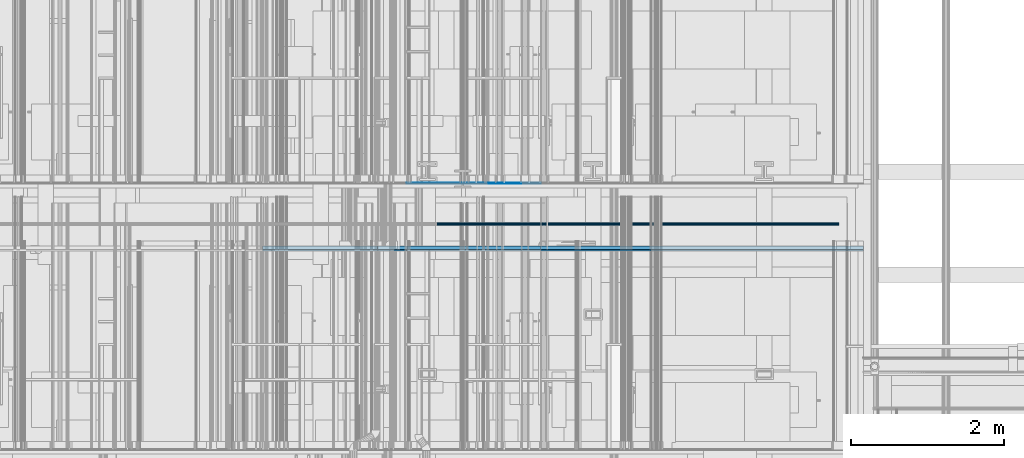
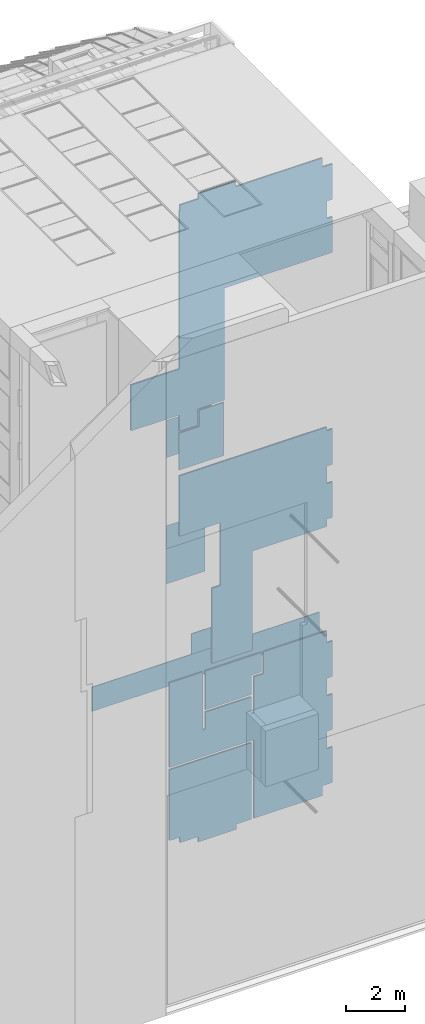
# One storey, part 254 of 583: 17 slabs.
"""IFC2X3 building model written with IfcOpenShell, lengths in metres."""

from ifc_helpers import new_model, entity, si_unit, converted_unit, derived_unit, money_unit, direction, frame, origin_with_axes, place, context, subcontext, project, spatial, faceted_brep, material, type_object, element, save


model = new_model("IFC2X3")

# Units and contexts
model_context = context("Model", 3, precision=1e-05, world=origin_with_axes(), true_north=direction((0.0, 1.0)))
body_context = subcontext(model_context, "Body", "Model", "MODEL_VIEW", scale=1.0)
ifc_project = project(units=[si_unit("LENGTHUNIT", "METRE"), si_unit("AREAUNIT", "SQUARE_METRE"), si_unit("VOLUMEUNIT", "CUBIC_METRE"), si_unit("ABSORBEDDOSEUNIT", "GRAY"), si_unit("AMOUNTOFSUBSTANCEUNIT", "MOLE"), si_unit("DOSEEQUIVALENTUNIT", "SIEVERT"), si_unit("ELECTRICCAPACITANCEUNIT", "FARAD"), si_unit("ELECTRICCHARGEUNIT", "COULOMB"), si_unit("ELECTRICCONDUCTANCEUNIT", "SIEMENS"), si_unit("ELECTRICCURRENTUNIT", "AMPERE"), si_unit("ELECTRICRESISTANCEUNIT", "OHM"), si_unit("ELECTRICVOLTAGEUNIT", "VOLT"), si_unit("ENERGYUNIT", "JOULE"), si_unit("FORCEUNIT", "NEWTON"), si_unit("FREQUENCYUNIT", "HERTZ"), si_unit("ILLUMINANCEUNIT", "LUX"), si_unit("INDUCTANCEUNIT", "HENRY"), si_unit("LUMINOUSFLUXUNIT", "LUMEN"), si_unit("LUMINOUSINTENSITYUNIT", "CANDELA"), si_unit("MAGNETICFLUXDENSITYUNIT", "TESLA"), si_unit("MAGNETICFLUXUNIT", "WEBER"), si_unit("MASSUNIT", "GRAM"), converted_unit("PLANEANGLEUNIT", "degree", entity("IfcReal", 0.0174532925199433), si_unit("PLANEANGLEUNIT", "RADIAN"), dimensions=[0, 0, 0, 0, 0, 0, 0]), si_unit("POWERUNIT", "WATT"), si_unit("PRESSUREUNIT", "PASCAL"), si_unit("RADIOACTIVITYUNIT", "BECQUEREL"), si_unit("SOLIDANGLEUNIT", "STERADIAN"), si_unit("THERMODYNAMICTEMPERATUREUNIT", "KELVIN"), si_unit("TIMEUNIT", "SECOND"), derived_unit("ACCELERATIONUNIT", [(si_unit("LENGTHUNIT", "METRE"), 1), (si_unit("TIMEUNIT", "SECOND"), -2)]), derived_unit("ANGULARVELOCITYUNIT", [(converted_unit("PLANEANGLEUNIT", "degree", entity("IfcReal", 0.0174532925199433), si_unit("PLANEANGLEUNIT", "RADIAN"), dimensions=[0, 0, 0, 0, 0, 0, 0]), 1), (si_unit("TIMEUNIT", "SECOND"), -1)]), derived_unit("CURVATUREUNIT", [(converted_unit("PLANEANGLEUNIT", "degree", entity("IfcReal", 0.0174532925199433), si_unit("PLANEANGLEUNIT", "RADIAN"), dimensions=[0, 0, 0, 0, 0, 0, 0]), 1), (si_unit("LENGTHUNIT", "METRE"), -1)]), derived_unit("DYNAMICVISCOSITYUNIT", [(si_unit("PRESSUREUNIT", "PASCAL"), 1), (si_unit("TIMEUNIT", "SECOND"), 1)]), derived_unit("HEATFLUXDENSITYUNIT", [(si_unit("POWERUNIT", "WATT"), 1), (si_unit("LENGTHUNIT", "METRE"), -2)]), derived_unit("HEATINGVALUEUNIT", [(si_unit("ENERGYUNIT", "JOULE"), 1), (si_unit("MASSUNIT", "GRAM"), -1)]), derived_unit("INTEGERCOUNTRATEUNIT", [(si_unit("TIMEUNIT", "SECOND"), -1)]), derived_unit("IONCONCENTRATIONUNIT", [(si_unit("MASSUNIT", "GRAM"), 1), (si_unit("VOLUMEUNIT", "CUBIC_METRE"), -1)]), derived_unit("ISOTHERMALMOISTURECAPACITYUNIT", [(si_unit("VOLUMEUNIT", "CUBIC_METRE"), 1), (si_unit("MASSUNIT", "GRAM"), -1)]), derived_unit("KINEMATICVISCOSITYUNIT", [(si_unit("AREAUNIT", "SQUARE_METRE"), 1), (si_unit("TIMEUNIT", "SECOND"), -1)]), derived_unit("LINEARFORCEUNIT", [(si_unit("FORCEUNIT", "NEWTON"), 1), (si_unit("LENGTHUNIT", "METRE"), -1)]), derived_unit("LINEARMOMENTUNIT", [(si_unit("FORCEUNIT", "NEWTON"), 1), (si_unit("LENGTHUNIT", "METRE"), -1)]), derived_unit("LINEARSTIFFNESSUNIT", [(si_unit("FORCEUNIT", "NEWTON"), 1), (si_unit("LENGTHUNIT", "METRE"), -1)]), derived_unit("LINEARVELOCITYUNIT", [(si_unit("LENGTHUNIT", "METRE"), 1), (si_unit("TIMEUNIT", "SECOND"), -1)]), derived_unit("LUMINOUSINTENSITYDISTRIBUTIONUNIT", [(si_unit("LUMINOUSINTENSITYUNIT", "CANDELA"), 1), (si_unit("LUMINOUSFLUXUNIT", "LUMEN"), -1)]), derived_unit("MASSDENSITYUNIT", [(si_unit("MASSUNIT", "GRAM"), 1), (si_unit("VOLUMEUNIT", "CUBIC_METRE"), -1)]), derived_unit("MASSFLOWRATEUNIT", [(si_unit("MASSUNIT", "GRAM"), 1), (si_unit("TIMEUNIT", "SECOND"), -1)]), derived_unit("MASSPERLENGTHUNIT", [(si_unit("MASSUNIT", "GRAM"), 1), (si_unit("LENGTHUNIT", "METRE"), -1)]), derived_unit("MODULUSOFELASTICITYUNIT", [(si_unit("FORCEUNIT", "NEWTON"), 1), (si_unit("AREAUNIT", "SQUARE_METRE"), -1)]), derived_unit("MODULUSOFLINEARSUBGRADEREACTIONUNIT", [(si_unit("FORCEUNIT", "NEWTON"), 1), (si_unit("LENGTHUNIT", "METRE"), -2)]), derived_unit("MODULUSOFROTATIONALSUBGRADEREACTIONUNIT", [(si_unit("FORCEUNIT", "NEWTON"), 1), (si_unit("LENGTHUNIT", "METRE"), 1)]), derived_unit("MODULUSOFSUBGRADEREACTIONUNIT", [(si_unit("FORCEUNIT", "NEWTON"), 1), (si_unit("VOLUMEUNIT", "CUBIC_METRE"), -1)]), derived_unit("MOISTUREDIFFUSIVITYUNIT", [(si_unit("VOLUMEUNIT", "CUBIC_METRE"), 1), (si_unit("TIMEUNIT", "SECOND"), -1)]), derived_unit("MOLECULARWEIGHTUNIT", [(si_unit("MASSUNIT", "GRAM"), 1), (si_unit("AMOUNTOFSUBSTANCEUNIT", "MOLE"), -1)]), derived_unit("PLANARFORCEUNIT", [(si_unit("FORCEUNIT", "NEWTON"), 1), (si_unit("LENGTHUNIT", "METRE"), -2)]), derived_unit("ROTATIONALFREQUENCYUNIT", [(si_unit("TIMEUNIT", "SECOND"), -1)]), derived_unit("ROTATIONALMASSUNIT", [(si_unit("MASSUNIT", "GRAM"), 1), (si_unit("LENGTHUNIT", "METRE"), 2)]), derived_unit("ROTATIONALSTIFFNESSUNIT", [(si_unit("FORCEUNIT", "NEWTON"), 1), (si_unit("LENGTHUNIT", "METRE"), 1), (converted_unit("PLANEANGLEUNIT", "degree", entity("IfcReal", 0.0174532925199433), si_unit("PLANEANGLEUNIT", "RADIAN"), dimensions=[0, 0, 0, 0, 0, 0, 0]), -1)]), derived_unit("SECTIONAREAINTEGRALUNIT", [(si_unit("LENGTHUNIT", "METRE"), 5)]), derived_unit("SECTIONMODULUSUNIT", [(si_unit("LENGTHUNIT", "METRE"), 3)]), derived_unit("SHEARMODULUSUNIT", [(si_unit("FORCEUNIT", "NEWTON"), 1), (si_unit("AREAUNIT", "SQUARE_METRE"), -1)]), derived_unit("SOUNDPOWERUNIT", [(si_unit("ENERGYUNIT", "JOULE"), 1), (si_unit("TIMEUNIT", "SECOND"), -1)]), derived_unit("SPECIFICHEATCAPACITYUNIT", [(si_unit("FORCEUNIT", "NEWTON"), 1), (si_unit("MASSUNIT", "GRAM"), -1), (si_unit("THERMODYNAMICTEMPERATUREUNIT", "KELVIN"), -1)]), derived_unit("TEMPERATUREGRADIENTUNIT", [(si_unit("THERMODYNAMICTEMPERATUREUNIT", "KELVIN"), 1), (si_unit("LENGTHUNIT", "METRE"), -1)]), derived_unit("THERMALADMITTANCEUNIT", [(si_unit("POWERUNIT", "WATT"), 1), (si_unit("AREAUNIT", "SQUARE_METRE"), -1), (si_unit("THERMODYNAMICTEMPERATUREUNIT", "KELVIN"), -1)]), derived_unit("THERMALCONDUCTANCEUNIT", [(si_unit("POWERUNIT", "WATT"), 1), (si_unit("LENGTHUNIT", "METRE"), -1), (si_unit("THERMODYNAMICTEMPERATUREUNIT", "KELVIN"), -1)]), derived_unit("THERMALEXPANSIONCOEFFICIENTUNIT", [(si_unit("THERMODYNAMICTEMPERATUREUNIT", "KELVIN"), -1)]), derived_unit("THERMALRESISTANCEUNIT", [(si_unit("AREAUNIT", "SQUARE_METRE"), 1), (si_unit("POWERUNIT", "WATT"), -1)]), derived_unit("THERMALTRANSMITTANCEUNIT", [(si_unit("POWERUNIT", "WATT"), 1), (si_unit("AREAUNIT", "SQUARE_METRE"), -1), (si_unit("THERMODYNAMICTEMPERATUREUNIT", "KELVIN"), -1)]), derived_unit("TORQUEUNIT", [(si_unit("FORCEUNIT", "NEWTON"), 1), (si_unit("LENGTHUNIT", "METRE"), 1)]), derived_unit("VAPORPERMEABILITYUNIT", [(si_unit("MASSUNIT", "GRAM"), 1), (si_unit("TIMEUNIT", "SECOND"), -1)]), derived_unit("VOLUMETRICFLOWRATEUNIT", [(si_unit("VOLUMEUNIT", "CUBIC_METRE"), 1), (si_unit("TIMEUNIT", "SECOND"), -1)]), derived_unit("WARPINGCONSTANTUNIT", [(si_unit("LENGTHUNIT", "METRE"), 6)]), derived_unit("WARPINGMOMENTUNIT", [(si_unit("FORCEUNIT", "NEWTON"), 1), (si_unit("LENGTHUNIT", "METRE"), 2)]), money_unit("GBP")], contexts=[model_context])

# Site, building, storey
site_placement = place(None, origin_with_axes())
site = spatial("IfcSite", under=ifc_project, at=site_placement, Name="Site", CompositionType="ELEMENT")
building_placement = place(site_placement, origin_with_axes())
building = spatial("IfcBuilding", under=site, at=building_placement, Name="Building01", CompositionType="ELEMENT")
storey_placement = place(building_placement, frame((0.0, 0.0, 20.78), z_axis=(0.0, 0.0, 1.0), x_axis=(1.0, 0.0, 0.0)))
storey = spatial("IfcBuildingStorey", under=building, at=storey_placement, Name="RL", CompositionType="ELEMENT", Elevation=20.78)

# Slabs
ifc_material_1 = material(Name="A_BSUK_CeilingSoffitFinishes_Suspended")
slab_type_1 = type_object("IfcSlabType", Name="A-FloorsSlabs A_BSUK_Slabs", PredefinedType="FLOOR")
placement = place(storey_placement, frame((0.0, 0.0, -20.78), z_axis=(0.0, 0.0, 1.0), x_axis=(1.0, 0.0, 0.0)))
element("IfcSlab", 1, at=placement, inside=storey, type_object=slab_type_1, material=ifc_material_1, Name="A-FloorsSlabs A_BSUK_Slabs", ObjectType="CompoundSlabLeaf", context=body_context, shape_type="Brep", body=[
    faceted_brep([(9.73567, 7.765, 4.669669), (9.73567, 7.78, 4.669669), (9.73567, 7.78, 7.064669), (9.73567, 7.765, 7.064669), (9.83067, 7.765, 4.669669), (9.83067, 7.78, 4.669669), (9.83067, 7.765, 5.369669), (9.83067, 7.78, 5.369669), (11.63067, 7.765, 5.369669), (11.63067, 7.78, 5.369669), (11.63067, 7.765, 4.669669), (11.63067, 7.78, 4.669669), (11.72567, 7.765, 4.669669), (11.72567, 7.78, 4.669669), (11.72567, 7.765, 6.169669), (11.72567, 7.78, 6.169669), (12.11067, 7.765, 6.169669), (12.11067, 7.78, 6.169669), (12.11067, 7.765, 7.064669), (12.11067, 7.78, 7.064669), (14.582, 7.765, 7.064669), (14.582, 7.78, 7.064669), (14.582, 7.765, 6.574876), (14.582, 7.78, 6.574876), (14.8, 7.765, 6.574876), (14.8, 7.78, 6.574876), (14.8, 7.765, 5.105), (14.8, 7.78, 5.105), (14.582, 7.765, 5.105), (14.582, 7.78, 5.105), (14.582, 7.765, 4.385), (14.582, 7.78, 4.385), (14.8, 7.765, 4.385), (14.8, 7.78, 4.385), (14.8, 7.765, 2.915), (14.8, 7.78, 2.915), (14.582, 7.765, 2.915), (14.582, 7.78, 2.915), (14.582, 7.765, 2.195), (14.582, 7.78, 2.195), (14.8, 7.765, 2.195), (14.8, 7.78, 2.195), (14.8, 7.765, 0.725), (14.8, 7.78, 0.725), (14.402, 7.765, 0.725), (14.402, 7.78, 0.725), (14.402, 7.765, 0.318), (14.402, 7.78, 0.318), (11.72567, 7.765, 0.318), (11.72567, 7.78, 0.318), (11.72567, 7.765, 3.569669), (11.72567, 7.78, 3.569669), (8.43567, 7.765, 3.569669), (8.43567, 7.78, 3.569669), (8.43567, 7.765, 7.064669), (8.43567, 7.78, 7.064669)], [[[0, 1, 2, 3]], [[4, 5, 1, 0]], [[6, 7, 5, 4]], [[8, 9, 7, 6]], [[10, 11, 9, 8]], [[12, 13, 11, 10]], [[14, 15, 13, 12]], [[16, 17, 15, 14]], [[18, 19, 17, 16]], [[20, 21, 19, 18]], [[22, 23, 21, 20]], [[24, 25, 23, 22]], [[26, 27, 25, 24]], [[28, 29, 27, 26]], [[30, 31, 29, 28]], [[32, 33, 31, 30]], [[34, 35, 33, 32]], [[36, 37, 35, 34]], [[38, 39, 37, 36]], [[40, 41, 39, 38]], [[42, 43, 41, 40]], [[44, 45, 43, 42]], [[46, 47, 45, 44]], [[48, 49, 47, 46]], [[50, 51, 49, 48]], [[52, 53, 51, 50]], [[54, 55, 53, 52]], [[3, 2, 55, 54]], [[1, 5, 7, 9, 11, 13, 15, 17, 19, 21, 23, 25, 27, 29, 31, 33, 35, 37, 39, 41, 43, 45, 47, 49, 51, 53, 55, 2]], [[3, 54, 52, 50, 48, 46, 44, 42, 40, 38, 36, 34, 32, 30, 28, 26, 24, 22, 20, 18, 16, 14, 12, 10, 8, 6, 4, 0]]]),
])
element("IfcSlab", 2, at=placement, inside=storey, type_object=slab_type_1, material=ifc_material_1, Name="A-FloorsSlabs A_BSUK_Slabs", ObjectType="CompoundSlabLeaf", context=body_context, shape_type="Brep", body=[
    faceted_brep([(10.53067, 7.765, 5.464669), (10.53067, 7.78, 5.464669), (11.63067, 7.78, 5.464669), (11.63067, 7.765, 5.464669), (9.83067, 7.765, 5.464669), (9.83067, 7.78, 5.464669), (9.83067, 7.765, 7.064669), (9.83067, 7.78, 7.064669), (12.01567, 7.765, 7.064669), (12.01567, 7.78, 7.064669), (12.01567, 7.765, 6.264669), (12.01567, 7.78, 6.264669), (11.63067, 7.765, 6.264669), (11.63067, 7.78, 6.264669)], [[[0, 1, 2, 3]], [[4, 5, 1, 0]], [[6, 7, 5, 4]], [[8, 9, 7, 6]], [[10, 11, 9, 8]], [[12, 13, 11, 10]], [[3, 2, 13, 12]], [[1, 5, 7, 9, 11, 13, 2]], [[3, 12, 10, 8, 6, 4, 0]]]),
])
element("IfcSlab", 3, at=placement, inside=storey, type_object=slab_type_1, material=ifc_material_1, Name="A-FloorsSlabs A_BSUK_Slabs", ObjectType="CompoundSlabLeaf", context=body_context, shape_type="Brep", body=[
    faceted_brep([(10.415, 7.765, 12.988585), (10.415, 7.78, 12.988585), (10.415, 7.78, 10.393871), (10.415, 7.765, 10.393871), (8.82, 7.765, 12.988585), (8.82, 7.78, 12.988585), (8.82, 7.765, 15.483132), (8.82, 7.78, 15.483132), (14.582, 7.765, 15.483132), (14.582, 7.78, 15.483132), (14.582, 7.765, 15.335), (14.582, 7.78, 15.335), (14.8, 7.765, 15.335), (14.8, 7.78, 15.335), (14.8, 7.765, 13.865), (14.8, 7.78, 13.865), (14.582, 7.765, 13.865), (14.582, 7.78, 13.865), (14.582, 7.765, 13.145), (14.582, 7.78, 13.145), (14.8, 7.765, 13.145), (14.8, 7.78, 13.145), (14.8, 7.765, 11.675), (14.8, 7.78, 11.675), (14.582, 7.765, 11.675), (14.582, 7.78, 11.675), (14.582, 7.765, 11.375), (14.582, 7.78, 11.375), (11.668124, 7.765, 11.375), (11.668124, 7.78, 11.375), (11.668124, 7.765, 10.653), (11.668124, 7.78, 10.653), (11.668124, 7.765, 9.642), (11.668124, 7.78, 9.642), (11.668124, 7.765, 7.289669), (11.668124, 7.78, 7.289669), (10.087704, 7.765, 7.289669), (10.087704, 7.78, 7.289669), (10.087704, 7.765, 10.393871), (10.087704, 7.78, 10.393871)], [[[0, 1, 2, 3]], [[4, 5, 1, 0]], [[6, 7, 5, 4]], [[8, 9, 7, 6]], [[10, 11, 9, 8]], [[12, 13, 11, 10]], [[14, 15, 13, 12]], [[16, 17, 15, 14]], [[18, 19, 17, 16]], [[20, 21, 19, 18]], [[22, 23, 21, 20]], [[24, 25, 23, 22]], [[26, 27, 25, 24]], [[28, 29, 27, 26]], [[30, 31, 29, 28]], [[32, 33, 31, 30]], [[34, 35, 33, 32]], [[36, 37, 35, 34]], [[38, 39, 37, 36]], [[3, 2, 39, 38]], [[1, 5, 7, 9, 11, 13, 15, 17, 19, 21, 23, 25, 27, 29, 31, 33, 35, 37, 39, 2]], [[3, 38, 36, 34, 32, 30, 28, 26, 24, 22, 20, 18, 16, 14, 12, 10, 8, 6, 4, 0]]]),
])
element("IfcSlab", 4, at=placement, inside=storey, type_object=slab_type_1, material=ifc_material_1, Name="A-FloorsSlabs A_BSUK_Slabs", ObjectType="CompoundSlabLeaf", context=body_context, shape_type="Brep", body=[
    faceted_brep([(6.93, 7.765, 18.395), (6.93, 7.78, 18.395), (6.93, 7.78, 18.0), (6.93, 7.765, 18.0), (6.93, 7.765, 19.395), (6.93, 7.78, 19.395), (6.93, 7.765, 19.897661), (6.93, 7.78, 19.897661), (8.82, 7.765, 19.897661), (8.82, 7.78, 19.897661), (8.82, 7.765, 26.432), (8.82, 7.78, 26.432), (8.848, 7.765, 26.432), (8.848, 7.78, 26.432), (8.848, 7.765, 26.662), (8.848, 7.78, 26.662), (9.56218, 7.765, 26.662), (9.56218, 7.78, 26.662), (9.56218, 7.765, 26.88), (9.56218, 7.78, 26.88), (11.03218, 7.765, 26.88), (11.03218, 7.78, 26.88), (11.03218, 7.765, 26.662), (11.03218, 7.78, 26.662), (14.402, 7.765, 26.662), (14.402, 7.78, 26.662), (14.402, 7.765, 26.285), (14.402, 7.78, 26.285), (14.8, 7.765, 26.285), (14.8, 7.78, 26.285), (14.8, 7.765, 24.815), (14.8, 7.78, 24.815), (14.582, 7.765, 24.815), (14.582, 7.78, 24.815), (14.582, 7.765, 24.095), (14.582, 7.78, 24.095), (14.8, 7.765, 24.095), (14.8, 7.78, 24.095), (14.8, 7.765, 22.625), (14.8, 7.78, 22.625), (10.57, 7.765, 22.625), (10.57, 7.78, 22.625), (10.57, 7.765, 19.891284), (10.57, 7.78, 19.891284), (10.57, 7.765, 19.044398), (10.57, 7.78, 19.044398), (10.57, 7.765, 18.0), (10.57, 7.78, 18.0), (9.525, 7.765, 18.0), (9.525, 7.78, 18.0), (9.525, 7.765, 17.333132), (9.525, 7.78, 17.333132), (8.82, 7.765, 17.333132), (8.82, 7.78, 17.333132), (8.82, 7.765, 18.0), (8.82, 7.78, 18.0), (7.82088, 7.765, 18.0), (7.82088, 7.78, 18.0), (7.02888, 7.765, 18.0), (7.02888, 7.78, 18.0)], [[[0, 1, 2, 3]], [[4, 5, 1, 0]], [[6, 7, 5, 4]], [[8, 9, 7, 6]], [[10, 11, 9, 8]], [[12, 13, 11, 10]], [[14, 15, 13, 12]], [[16, 17, 15, 14]], [[18, 19, 17, 16]], [[20, 21, 19, 18]], [[22, 23, 21, 20]], [[24, 25, 23, 22]], [[26, 27, 25, 24]], [[28, 29, 27, 26]], [[30, 31, 29, 28]], [[32, 33, 31, 30]], [[34, 35, 33, 32]], [[36, 37, 35, 34]], [[38, 39, 37, 36]], [[40, 41, 39, 38]], [[42, 43, 41, 40]], [[44, 45, 43, 42]], [[46, 47, 45, 44]], [[48, 49, 47, 46]], [[50, 51, 49, 48]], [[52, 53, 51, 50]], [[54, 55, 53, 52]], [[56, 57, 55, 54]], [[58, 59, 57, 56]], [[3, 2, 59, 58]], [[1, 5, 7, 9, 11, 13, 15, 17, 19, 21, 23, 25, 27, 29, 31, 33, 35, 37, 39, 41, 43, 45, 47, 49, 51, 53, 55, 57, 59, 2]], [[3, 58, 56, 54, 52, 50, 48, 46, 44, 42, 40, 38, 36, 34, 32, 30, 28, 26, 24, 22, 20, 18, 16, 14, 12, 10, 8, 6, 4, 0]]]),
])
element("IfcSlab", 5, at=placement, inside=storey, type_object=slab_type_1, material=ifc_material_1, Name="A-FloorsSlabs A_BSUK_Slabs", ObjectType="CompoundSlabLeaf", context=body_context, shape_type="Brep", body=[
    faceted_brep([(11.63067, 7.765, 0.318), (11.63067, 7.78, 0.318), (11.63067, 7.78, 3.474669), (11.63067, 7.765, 3.474669), (11.055, 7.765, 0.318), (11.055, 7.78, 0.318), (11.055, 7.765, 0.1), (11.055, 7.78, 0.1), (9.56218, 7.765, 0.1), (9.56218, 7.78, 0.1), (9.56218, 7.765, 0.318), (9.56218, 7.78, 0.318), (8.848, 7.765, 0.318), (8.848, 7.78, 0.318), (8.848, 7.765, 0.548), (8.848, 7.78, 0.548), (8.43567, 7.765, 0.548), (8.43567, 7.78, 0.548), (8.43567, 7.765, 3.474669), (8.43567, 7.78, 3.474669)], [[[0, 1, 2, 3]], [[4, 5, 1, 0]], [[6, 7, 5, 4]], [[8, 9, 7, 6]], [[10, 11, 9, 8]], [[12, 13, 11, 10]], [[14, 15, 13, 12]], [[16, 17, 15, 14]], [[18, 19, 17, 16]], [[3, 2, 19, 18]], [[1, 5, 7, 9, 11, 13, 15, 17, 19, 2]], [[3, 18, 16, 14, 12, 10, 8, 6, 4, 0]]]),
])
element("IfcSlab", 6, at=placement, inside=storey, type_object=slab_type_1, material=ifc_material_1, Name="A-FloorsSlabs A_BSUK_Slabs", ObjectType="CompoundSlabLeaf", context=body_context, shape_type="Brep", body=[
    faceted_brep([(5.593, 8.115, 6.677169), (5.593, 8.13, 6.677169), (14.48, 8.13, 6.677169), (14.48, 8.115, 6.677169), (5.593, 8.115, 7.677169), (5.593, 8.13, 7.677169), (14.48, 8.115, 7.677169), (14.48, 8.13, 7.677169)], [[[0, 1, 2, 3]], [[4, 5, 1, 0]], [[6, 7, 5, 4]], [[3, 2, 7, 6]], [[1, 5, 7, 2]], [[3, 6, 4, 0]]]),
])
element("IfcSlab", 7, at=placement, inside=storey, type_object=slab_type_1, material=ifc_material_1, Name="A-FloorsSlabs A_BSUK_Slabs", ObjectType="CompoundSlabLeaf", context=body_context, shape_type="Brep", body=[
    faceted_brep([(9.475204, 8.115, 7.677169), (9.475204, 8.13, 7.677169), (10.475204, 8.13, 7.677169), (10.475204, 8.115, 7.677169), (9.475204, 8.115, 8.525), (9.475204, 8.13, 8.525), (10.475204, 8.115, 8.525), (10.475204, 8.13, 8.525)], [[[0, 1, 2, 3]], [[4, 5, 1, 0]], [[6, 7, 5, 4]], [[3, 2, 7, 6]], [[1, 5, 7, 2]], [[3, 6, 4, 0]]]),
])
element("IfcSlab", 8, at=placement, inside=storey, type_object=slab_type_1, material=ifc_material_1, Name="A-FloorsSlabs A_BSUK_Slabs", ObjectType="CompoundSlabLeaf", context=body_context, shape_type="Brep", body=[
    faceted_brep([(5.593, 8.1, 6.677169), (5.593, 8.115, 6.677169), (14.48, 8.115, 6.677169), (14.48, 8.1, 6.677169), (5.593, 8.1, 7.677169), (5.593, 8.115, 7.677169), (14.48, 8.1, 7.677169), (14.48, 8.115, 7.677169)], [[[0, 1, 2, 3]], [[4, 5, 1, 0]], [[6, 7, 5, 4]], [[3, 2, 7, 6]], [[1, 5, 7, 2]], [[3, 6, 4, 0]]]),
])
element("IfcSlab", 9, at=placement, inside=storey, type_object=slab_type_1, material=ifc_material_1, Name="A-FloorsSlabs A_BSUK_Slabs", ObjectType="CompoundSlabLeaf", context=body_context, shape_type="Brep", body=[
    faceted_brep([(9.475204, 8.1, 7.677169), (9.475204, 8.115, 7.677169), (10.475204, 8.115, 7.677169), (10.475204, 8.1, 7.677169), (9.475204, 8.1, 8.525), (9.475204, 8.115, 8.525), (10.475204, 8.1, 8.525), (10.475204, 8.115, 8.525)], [[[0, 1, 2, 3]], [[4, 5, 1, 0]], [[6, 7, 5, 4]], [[3, 2, 7, 6]], [[1, 5, 7, 2]], [[3, 6, 4, 0]]]),
])
ifc_material_2 = material(Name="A_BSUK_Ceramic_FloorTiles")
element("IfcSlab", 10, at=placement, inside=storey, type_object=slab_type_1, material=ifc_material_2, Name="A-FloorsSlabs A_BSUK_Slabs", ObjectType="CompoundSlabLeaf", context=body_context, shape_type="Brep", body=[
    faceted_brep([(10.32, 8.643, 10.488871), (10.32, 8.655, 10.488871), (10.32, 8.655, 12.893585), (10.32, 8.643, 12.893585), (8.82, 8.643, 10.488871), (8.82, 8.655, 10.488871), (8.82, 8.643, 12.893585), (8.82, 8.655, 12.893585)], [[[0, 1, 2, 3]], [[4, 5, 1, 0]], [[6, 7, 5, 4]], [[3, 2, 7, 6]], [[1, 5, 7, 2]], [[3, 6, 4, 0]]]),
])
element("IfcSlab", 11, at=placement, inside=storey, type_object=slab_type_1, material=ifc_material_2, Name="A-FloorsSlabs A_BSUK_Slabs", ObjectType="CompoundSlabLeaf", context=body_context, shape_type="Brep", body=[
    faceted_brep([(8.82, 8.643, 15.708132), (8.82, 8.655, 15.708132), (10.57, 8.655, 15.708132), (10.57, 8.643, 15.708132), (8.82, 8.643, 17.238132), (8.82, 8.655, 17.238132), (9.62, 8.643, 17.238132), (9.62, 8.655, 17.238132), (9.62, 8.643, 17.905), (9.62, 8.655, 17.905), (10.57, 8.643, 17.905), (10.57, 8.655, 17.905)], [[[0, 1, 2, 3]], [[4, 5, 1, 0]], [[6, 7, 5, 4]], [[8, 9, 7, 6]], [[10, 11, 9, 8]], [[3, 2, 11, 10]], [[1, 5, 7, 9, 11, 2]], [[3, 10, 8, 6, 4, 0]]]),
])
ifc_material_3 = material(Name="A_BSUK_ExpandedPolystyreneBoards")
slab_type_2 = type_object("IfcSlabType", Name="A-FloorsSlabs A_BSUK_ExpandedPolystyreneBoards", PredefinedType="FLOOR")
element("IfcSlab", 12, at=placement, inside=storey, type_object=slab_type_2, material=ifc_material_3, Name="A-FloorsSlabs A_BSUK_ExpandedPolystyreneBoards", ObjectType="CompoundSlabLeaf", context=body_context, shape_type="Brep", body=[
    faceted_brep([(9.73567, 7.78, 4.669669), (9.73567, 7.83, 4.669669), (9.73567, 7.83, 7.064669), (9.73567, 7.78, 7.064669), (9.83067, 7.78, 4.669669), (9.83067, 7.83, 4.669669), (9.83067, 7.78, 5.369669), (9.83067, 7.83, 5.369669), (11.63067, 7.78, 5.369669), (11.63067, 7.83, 5.369669), (11.63067, 7.78, 4.669669), (11.63067, 7.83, 4.669669), (11.72567, 7.78, 4.669669), (11.72567, 7.83, 4.669669), (11.72567, 7.78, 6.169669), (11.72567, 7.83, 6.169669), (12.11067, 7.78, 6.169669), (12.11067, 7.83, 6.169669), (12.11067, 7.78, 7.064669), (12.11067, 7.83, 7.064669), (14.582, 7.78, 7.064669), (14.582, 7.83, 7.064669), (14.582, 7.78, 6.574876), (14.582, 7.83, 6.574876), (14.8, 7.78, 6.574876), (14.8, 7.83, 6.574876), (14.8, 7.78, 5.105), (14.8, 7.83, 5.105), (14.582, 7.78, 5.105), (14.582, 7.83, 5.105), (14.582, 7.78, 4.385), (14.582, 7.83, 4.385), (14.8, 7.78, 4.385), (14.8, 7.83, 4.385), (14.8, 7.78, 2.915), (14.8, 7.83, 2.915), (14.582, 7.78, 2.915), (14.582, 7.83, 2.915), (14.582, 7.78, 2.195), (14.582, 7.83, 2.195), (14.8, 7.78, 2.195), (14.8, 7.83, 2.195), (14.8, 7.78, 0.725), (14.8, 7.83, 0.725), (14.402, 7.78, 0.725), (14.402, 7.83, 0.725), (14.402, 7.78, 0.318), (14.402, 7.83, 0.318), (11.72567, 7.78, 0.318), (11.72567, 7.83, 0.318), (11.72567, 7.78, 3.569669), (11.72567, 7.83, 3.569669), (8.43567, 7.78, 3.569669), (8.43567, 7.83, 3.569669), (8.43567, 7.78, 7.064669), (8.43567, 7.83, 7.064669)], [[[0, 1, 2, 3]], [[4, 5, 1, 0]], [[6, 7, 5, 4]], [[8, 9, 7, 6]], [[10, 11, 9, 8]], [[12, 13, 11, 10]], [[14, 15, 13, 12]], [[16, 17, 15, 14]], [[18, 19, 17, 16]], [[20, 21, 19, 18]], [[22, 23, 21, 20]], [[24, 25, 23, 22]], [[26, 27, 25, 24]], [[28, 29, 27, 26]], [[30, 31, 29, 28]], [[32, 33, 31, 30]], [[34, 35, 33, 32]], [[36, 37, 35, 34]], [[38, 39, 37, 36]], [[40, 41, 39, 38]], [[42, 43, 41, 40]], [[44, 45, 43, 42]], [[46, 47, 45, 44]], [[48, 49, 47, 46]], [[50, 51, 49, 48]], [[52, 53, 51, 50]], [[54, 55, 53, 52]], [[3, 2, 55, 54]], [[1, 5, 7, 9, 11, 13, 15, 17, 19, 21, 23, 25, 27, 29, 31, 33, 35, 37, 39, 41, 43, 45, 47, 49, 51, 53, 55, 2]], [[3, 54, 52, 50, 48, 46, 44, 42, 40, 38, 36, 34, 32, 30, 28, 26, 24, 22, 20, 18, 16, 14, 12, 10, 8, 6, 4, 0]]]),
])
element("IfcSlab", 13, at=placement, inside=storey, type_object=slab_type_2, material=ifc_material_3, Name="A-FloorsSlabs A_BSUK_ExpandedPolystyreneBoards", ObjectType="CompoundSlabLeaf", context=body_context, shape_type="Brep", body=[
    faceted_brep([(10.415, 7.78, 12.988585), (10.415, 7.83, 12.988585), (10.415, 7.83, 10.393871), (10.415, 7.78, 10.393871), (8.82, 7.78, 12.988585), (8.82, 7.83, 12.988585), (8.82, 7.78, 15.483132), (8.82, 7.83, 15.483132), (14.582, 7.78, 15.483132), (14.582, 7.83, 15.483132), (14.582, 7.78, 15.335), (14.582, 7.83, 15.335), (14.8, 7.78, 15.335), (14.8, 7.83, 15.335), (14.8, 7.78, 13.865), (14.8, 7.83, 13.865), (14.582, 7.78, 13.865), (14.582, 7.83, 13.865), (14.582, 7.78, 13.145), (14.582, 7.83, 13.145), (14.8, 7.78, 13.145), (14.8, 7.83, 13.145), (14.8, 7.78, 11.675), (14.8, 7.83, 11.675), (14.582, 7.78, 11.675), (14.582, 7.83, 11.675), (14.582, 7.78, 11.375), (14.582, 7.83, 11.375), (11.668124, 7.78, 11.375), (11.668124, 7.83, 11.375), (11.668124, 7.78, 10.653), (11.668124, 7.83, 10.653), (11.668124, 7.78, 9.642), (11.668124, 7.83, 9.642), (11.668124, 7.78, 7.289669), (11.668124, 7.83, 7.289669), (10.087704, 7.78, 7.289669), (10.087704, 7.83, 7.289669), (10.087704, 7.78, 10.393871), (10.087704, 7.83, 10.393871)], [[[0, 1, 2, 3]], [[4, 5, 1, 0]], [[6, 7, 5, 4]], [[8, 9, 7, 6]], [[10, 11, 9, 8]], [[12, 13, 11, 10]], [[14, 15, 13, 12]], [[16, 17, 15, 14]], [[18, 19, 17, 16]], [[20, 21, 19, 18]], [[22, 23, 21, 20]], [[24, 25, 23, 22]], [[26, 27, 25, 24]], [[28, 29, 27, 26]], [[30, 31, 29, 28]], [[32, 33, 31, 30]], [[34, 35, 33, 32]], [[36, 37, 35, 34]], [[38, 39, 37, 36]], [[3, 2, 39, 38]], [[1, 5, 7, 9, 11, 13, 15, 17, 19, 21, 23, 25, 27, 29, 31, 33, 35, 37, 39, 2]], [[3, 38, 36, 34, 32, 30, 28, 26, 24, 22, 20, 18, 16, 14, 12, 10, 8, 6, 4, 0]]]),
])
element("IfcSlab", 14, at=placement, inside=storey, type_object=slab_type_2, material=ifc_material_3, Name="A-FloorsSlabs A_BSUK_ExpandedPolystyreneBoards", ObjectType="CompoundSlabLeaf", context=body_context, shape_type="Brep", body=[
    faceted_brep([(6.93, 7.78, 18.395), (6.93, 7.83, 18.395), (6.93, 7.83, 18.0), (6.93, 7.78, 18.0), (6.93, 7.78, 19.395), (6.93, 7.83, 19.395), (6.93, 7.78, 19.897661), (6.93, 7.83, 19.897661), (8.82, 7.78, 19.897661), (8.82, 7.83, 19.897661), (8.82, 7.78, 26.432), (8.82, 7.83, 26.432), (8.848, 7.78, 26.432), (8.848, 7.83, 26.432), (8.848, 7.78, 26.662), (8.848, 7.83, 26.662), (9.56218, 7.78, 26.662), (9.56218, 7.83, 26.662), (9.56218, 7.78, 26.88), (9.56218, 7.83, 26.88), (11.03218, 7.78, 26.88), (11.03218, 7.83, 26.88), (11.03218, 7.78, 26.662), (11.03218, 7.83, 26.662), (14.402, 7.78, 26.662), (14.402, 7.83, 26.662), (14.402, 7.78, 26.285), (14.402, 7.83, 26.285), (14.8, 7.78, 26.285), (14.8, 7.83, 26.285), (14.8, 7.78, 24.815), (14.8, 7.83, 24.815), (14.582, 7.78, 24.815), (14.582, 7.83, 24.815), (14.582, 7.78, 24.095), (14.582, 7.83, 24.095), (14.8, 7.78, 24.095), (14.8, 7.83, 24.095), (14.8, 7.78, 22.625), (14.8, 7.83, 22.625), (10.57, 7.78, 22.625), (10.57, 7.83, 22.625), (10.57, 7.78, 19.891284), (10.57, 7.83, 19.891284), (10.57, 7.78, 19.044398), (10.57, 7.83, 19.044398), (10.57, 7.78, 18.0), (10.57, 7.83, 18.0), (9.525, 7.78, 18.0), (9.525, 7.83, 18.0), (9.525, 7.78, 17.333132), (9.525, 7.83, 17.333132), (8.82, 7.78, 17.333132), (8.82, 7.83, 17.333132), (8.82, 7.78, 18.0), (8.82, 7.83, 18.0), (7.82088, 7.78, 18.0), (7.82088, 7.83, 18.0), (7.02888, 7.78, 18.0), (7.02888, 7.83, 18.0)], [[[0, 1, 2, 3]], [[4, 5, 1, 0]], [[6, 7, 5, 4]], [[8, 9, 7, 6]], [[10, 11, 9, 8]], [[12, 13, 11, 10]], [[14, 15, 13, 12]], [[16, 17, 15, 14]], [[18, 19, 17, 16]], [[20, 21, 19, 18]], [[22, 23, 21, 20]], [[24, 25, 23, 22]], [[26, 27, 25, 24]], [[28, 29, 27, 26]], [[30, 31, 29, 28]], [[32, 33, 31, 30]], [[34, 35, 33, 32]], [[36, 37, 35, 34]], [[38, 39, 37, 36]], [[40, 41, 39, 38]], [[42, 43, 41, 40]], [[44, 45, 43, 42]], [[46, 47, 45, 44]], [[48, 49, 47, 46]], [[50, 51, 49, 48]], [[52, 53, 51, 50]], [[54, 55, 53, 52]], [[56, 57, 55, 54]], [[58, 59, 57, 56]], [[3, 2, 59, 58]], [[1, 5, 7, 9, 11, 13, 15, 17, 19, 21, 23, 25, 27, 29, 31, 33, 35, 37, 39, 41, 43, 45, 47, 49, 51, 53, 55, 57, 59, 2]], [[3, 58, 56, 54, 52, 50, 48, 46, 44, 42, 40, 38, 36, 34, 32, 30, 28, 26, 24, 22, 20, 18, 16, 14, 12, 10, 8, 6, 4, 0]]]),
])
element("IfcSlab", 15, at=placement, inside=storey, type_object=slab_type_2, material=ifc_material_3, Name="A-FloorsSlabs A_BSUK_ExpandedPolystyreneBoards", ObjectType="CompoundSlabLeaf", context=body_context, shape_type="Brep", body=[
    faceted_brep([(10.57, 7.78, 15.708132), (10.57, 7.83, 15.708132), (10.57, 7.83, 17.905), (10.57, 7.78, 17.905), (8.82, 7.78, 15.708132), (8.82, 7.83, 15.708132), (8.82, 7.78, 17.238132), (8.82, 7.83, 17.238132), (9.62, 7.78, 17.238132), (9.62, 7.83, 17.238132), (9.62, 7.78, 17.905), (9.62, 7.83, 17.905)], [[[0, 1, 2, 3]], [[4, 5, 1, 0]], [[6, 7, 5, 4]], [[8, 9, 7, 6]], [[10, 11, 9, 8]], [[3, 2, 11, 10]], [[1, 5, 7, 9, 11, 2]], [[3, 10, 8, 6, 4, 0]]]),
])
element("IfcSlab", 16, at=placement, inside=storey, type_object=slab_type_2, material=ifc_material_3, Name="A-FloorsSlabs A_BSUK_ExpandedPolystyreneBoards", ObjectType="CompoundSlabLeaf", context=body_context, shape_type="Brep", body=[
    faceted_brep([(11.63067, 7.78, 0.318), (11.63067, 7.83, 0.318), (11.63067, 7.83, 3.474669), (11.63067, 7.78, 3.474669), (11.055, 7.78, 0.318), (11.055, 7.83, 0.318), (11.055, 7.78, 0.1), (11.055, 7.83, 0.1), (9.56218, 7.78, 0.1), (9.56218, 7.83, 0.1), (9.56218, 7.78, 0.318), (9.56218, 7.83, 0.318), (8.848, 7.78, 0.318), (8.848, 7.83, 0.318), (8.848, 7.78, 0.548), (8.848, 7.83, 0.548), (8.43567, 7.78, 0.548), (8.43567, 7.83, 0.548), (8.43567, 7.78, 3.474669), (8.43567, 7.83, 3.474669)], [[[0, 1, 2, 3]], [[4, 5, 1, 0]], [[6, 7, 5, 4]], [[8, 9, 7, 6]], [[10, 11, 9, 8]], [[12, 13, 11, 10]], [[14, 15, 13, 12]], [[16, 17, 15, 14]], [[18, 19, 17, 16]], [[3, 2, 19, 18]], [[1, 5, 7, 9, 11, 13, 15, 17, 19, 2]], [[3, 18, 16, 14, 12, 10, 8, 6, 4, 0]]]),
])
element("IfcSlab", 17, at=placement, inside=storey, type_object=slab_type_2, material=ifc_material_3, Name="A-FloorsSlabs A_BSUK_ExpandedPolystyreneBoards", ObjectType="CompoundSlabLeaf", context=body_context, shape_type="Brep", body=[
    faceted_brep([(10.53067, 7.78, 5.464669), (10.53067, 7.83, 5.464669), (11.63067, 7.83, 5.464669), (11.63067, 7.78, 5.464669), (9.83067, 7.78, 5.464669), (9.83067, 7.83, 5.464669), (9.83067, 7.78, 7.064669), (9.83067, 7.83, 7.064669), (12.01567, 7.78, 7.064669), (12.01567, 7.83, 7.064669), (12.01567, 7.78, 6.264669), (12.01567, 7.83, 6.264669), (11.63067, 7.78, 6.264669), (11.63067, 7.83, 6.264669)], [[[0, 1, 2, 3]], [[4, 5, 1, 0]], [[6, 7, 5, 4]], [[8, 9, 7, 6]], [[10, 11, 9, 8]], [[12, 13, 11, 10]], [[3, 2, 13, 12]], [[1, 5, 7, 9, 11, 13, 2]], [[3, 12, 10, 8, 6, 4, 0]]]),
])

save(model, "model.ifc")
